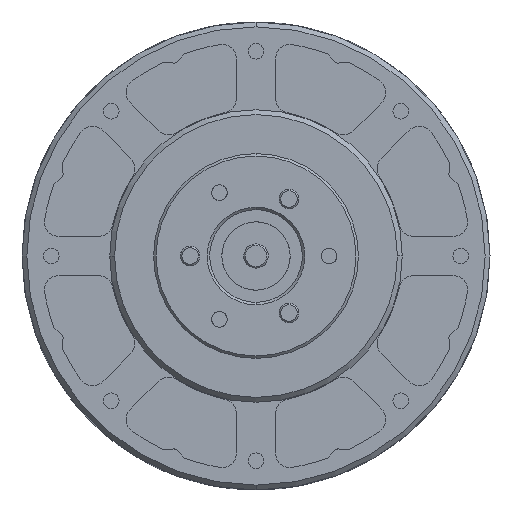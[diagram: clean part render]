
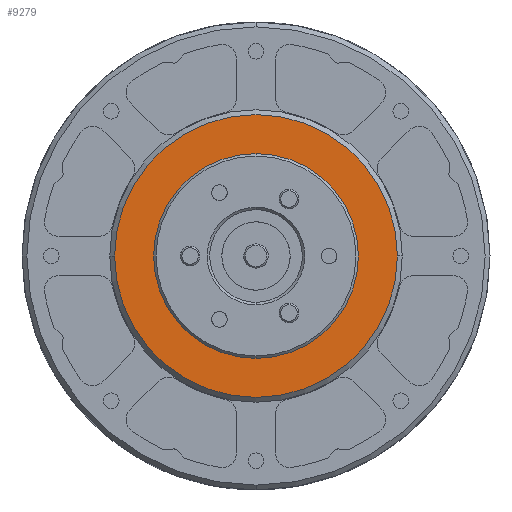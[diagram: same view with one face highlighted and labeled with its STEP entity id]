
A CAD part, left-side view. The second image highlights one B-rep face of the part: STEP entity #9279.
In plain terms, the highlighted planar face has unit normal (-1, 0, 0).
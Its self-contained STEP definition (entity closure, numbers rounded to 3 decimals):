
#193 = FACE_OUTER_BOUND ( 'NONE', #16552, .T. ) ;
#468 = DIRECTION ( 'NONE',  ( 0., 0., -1. ) ) ;
#1264 = EDGE_CURVE ( 'NONE', #20420, #19116, #15394, .T. ) ;
#2740 = CARTESIAN_POINT ( 'NONE',  ( 684.719, 256.693, 0. ) ) ;
#3752 = DIRECTION ( 'NONE',  ( 1., 0., 0. ) ) ;
#4431 = CARTESIAN_POINT ( 'NONE',  ( 684.719, 227.693, 21. ) ) ;
#4844 = AXIS2_PLACEMENT_3D ( 'NONE', #12004, #15273, #12087 ) ;
#6657 = CIRCLE ( 'NONE', #15703, 29. ) ;
#7178 = CARTESIAN_POINT ( 'NONE',  ( 684.719, 227.693, 0. ) ) ;
#7222 = DIRECTION ( 'NONE',  ( 1., 0., 0. ) ) ;
#7469 = EDGE_CURVE ( 'NONE', #16534, #8155, #19600, .T. ) ;
#7792 = DIRECTION ( 'NONE',  ( 0., 0., 1. ) ) ;
#8099 = AXIS2_PLACEMENT_3D ( 'NONE', #20341, #8922, #17284 ) ;
#8155 = VERTEX_POINT ( 'NONE', #21237 ) ;
#8922 = DIRECTION ( 'NONE',  ( 1., 0., 0. ) ) ;
#8931 = FACE_BOUND ( 'NONE', #20663, .T. ) ;
#9139 = CARTESIAN_POINT ( 'NONE',  ( 684.719, 227.693, 0. ) ) ;
#9279 = ADVANCED_FACE ( 'NONE', ( #193, #8931 ), #16487, .T. ) ;
#10130 = CARTESIAN_POINT ( 'NONE',  ( 684.719, 198.693, 0. ) ) ;
#12004 = CARTESIAN_POINT ( 'NONE',  ( 684.719, 227.693, 0. ) ) ;
#12087 = DIRECTION ( 'NONE',  ( 0., 0., -1. ) ) ;
#14501 = ORIENTED_EDGE ( 'NONE', *, *, #22210, .T. ) ;
#14967 = CIRCLE ( 'NONE', #4844, 21. ) ;
#15273 = DIRECTION ( 'NONE',  ( 1., 0., 0. ) ) ;
#15394 = CIRCLE ( 'NONE', #8099, 29. ) ;
#15703 = AXIS2_PLACEMENT_3D ( 'NONE', #9139, #7222, #21299 ) ;
#15832 = EDGE_CURVE ( 'NONE', #19116, #20420, #6657, .T. ) ;
#15986 = ORIENTED_EDGE ( 'NONE', *, *, #1264, .F. ) ;
#16487 = PLANE ( 'NONE',  #16505 ) ;
#16505 = AXIS2_PLACEMENT_3D ( 'NONE', #2740, #16697, #7792 ) ;
#16534 = VERTEX_POINT ( 'NONE', #4431 ) ;
#16552 = EDGE_LOOP ( 'NONE', ( #20254, #15986 ) ) ;
#16697 = DIRECTION ( 'NONE',  ( -1., 0., 0. ) ) ;
#17284 = DIRECTION ( 'NONE',  ( 0., 1., 0. ) ) ;
#19116 = VERTEX_POINT ( 'NONE', #19830 ) ;
#19131 = ORIENTED_EDGE ( 'NONE', *, *, #7469, .T. ) ;
#19525 = AXIS2_PLACEMENT_3D ( 'NONE', #7178, #3752, #468 ) ;
#19600 = CIRCLE ( 'NONE', #19525, 21. ) ;
#19830 = CARTESIAN_POINT ( 'NONE',  ( 684.719, 256.693, 0. ) ) ;
#20254 = ORIENTED_EDGE ( 'NONE', *, *, #15832, .F. ) ;
#20341 = CARTESIAN_POINT ( 'NONE',  ( 684.719, 227.693, 0. ) ) ;
#20420 = VERTEX_POINT ( 'NONE', #10130 ) ;
#20663 = EDGE_LOOP ( 'NONE', ( #14501, #19131 ) ) ;
#21237 = CARTESIAN_POINT ( 'NONE',  ( 684.719, 227.693, -21. ) ) ;
#21299 = DIRECTION ( 'NONE',  ( 0., 1., 0. ) ) ;
#22210 = EDGE_CURVE ( 'NONE', #8155, #16534, #14967, .T. ) ;
